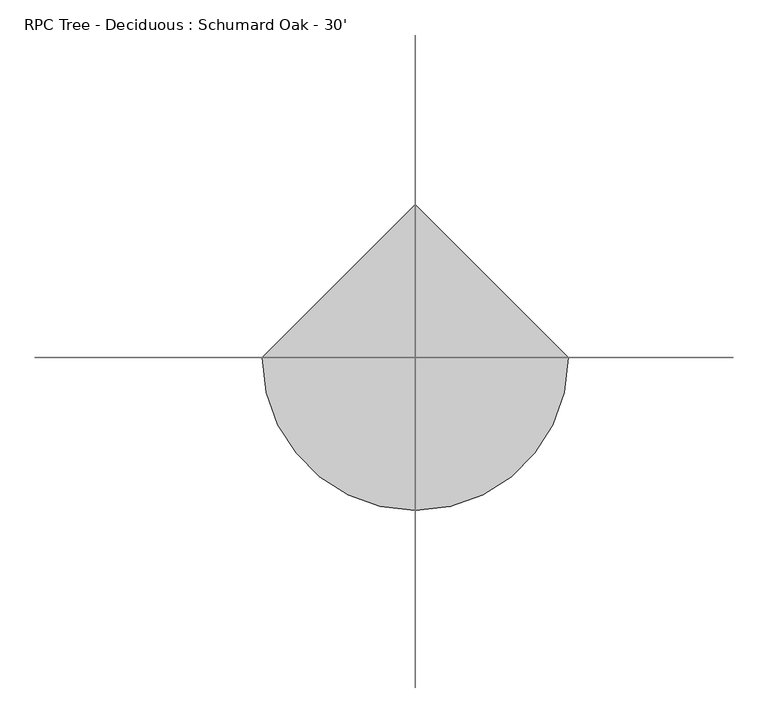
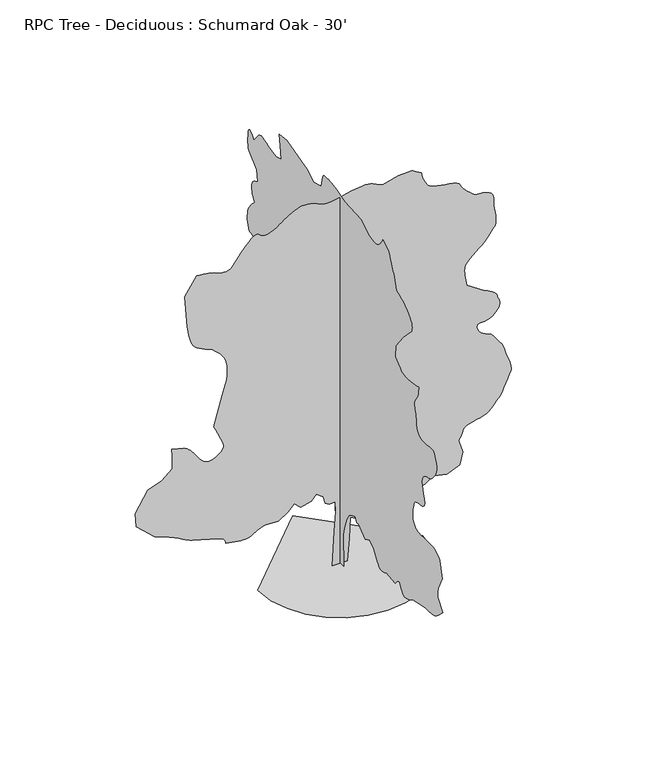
"""IFC4 building model written with IfcOpenShell, lengths in millimetres: geographic element geometry, RPC Tree - Deciduous : Schumard Oak - 30'."""

from ifc_helpers import new_model, si_unit, origin, place, context, project, spatial, triangles, source, transform, mapped, element, save


def rpc_tree_deciduous_schumard_oak_30_cf07c7db(model_context):
    return source(origin(), model_context, "Body", "Tessellation", [
        triangles([(-0.0016958, 164.6246354, 0.0086022), (-0.0016958, -151.6104316, 0.0086022), (-0.0016958, -124.1113561, 783.7227293), (-0.0016958, -179.1089983, 1017.4612965), (-0.0016958, -261.6049622, 1237.4509209), (-0.0016958, -357.8507226, 1388.6927067), (-0.0016958, -467.8454985, 1457.4403999), (-0.0016958, -605.3383779, 1512.436607), (-0.0016958, -660.3370193, 1388.6927067), (-0.0016958, -756.5828161, 1416.1908829), (-0.0016958, -866.5775557, 1306.195998), (-0.0016958, -1017.8194868, 1209.9502739), (-0.0016958, -1196.5619196, 1292.4469826), (-0.0016958, -1361.5527935, 1182.452243), (-0.0016958, -1471.5476784, 989.9607222), (-0.0016958, -1498.1643677, 951.9597713), (-0.0016958, -1525.3829098, 915.7621988), (-0.0016958, -1553.8031227, 883.1739264), (-0.0016958, -1584.0290394, 855.9959341), (-0.0016958, -1616.658007, 836.0340712), (-0.0016958, -1652.2942039, 825.0891724), (-0.0016958, -1691.5371574, 824.9697756), (-0.0016958, -1729.1774471, 831.662681), (-0.0016958, -1760.3255459, 839.8008471), (-0.0016958, -1786.0582775, 849.1404659), (-0.0016958, -1807.4654011, 859.4426714), (-0.0016958, -1825.6238857, 870.4663445), (-0.0016958, -1841.6182583, 881.9725462), (-0.0016958, -1856.5307201, 893.7149254), (-0.0016958, -2214.0131149, 852.4678791), (-0.0016958, -2249.2480282, 893.1561659), (-0.0016958, -2283.7616192, 930.4738735), (-0.0016958, -2316.8324203, 961.0605967), (-0.0016958, -2347.7391094, 981.54314), (-0.0016958, -2375.7578934, 988.5586275), (-0.0016958, -2400.1697754, 978.7389507), (-0.0016958, -2420.2535786, 948.7136032), (-0.0016958, -2440.416156, 905.5412384), (-0.0016958, -2465.389341, 860.9260838), (-0.0016958, -2494.9323051, 818.4750412), (-0.0016958, -2528.8058189, 781.7974108), (-0.0016958, -2566.7735596, 754.4999491), (-0.0016958, -2608.5820541, 740.1896307), (-0.0016958, -2653.9973053, 742.4730669), (-0.0016958, -2699.5395836, 755.8614212), (-0.0016958, -2742.1861084, 772.1352098), (-0.0016958, -2782.4196991, 790.8169184), (-0.0016958, -2820.7484642, 811.421402), (-0.0016958, -2857.6293526, 833.4686754), (-0.0016958, -2893.5448929, 856.475992), (-0.0016958, -2928.9779045, 879.96591), (-0.0016958, -3423.9482735, 976.2117067), (-0.0016958, -3485.6956673, 976.3335743), (-0.0016958, -3546.579451, 977.174366), (-0.0016958, -3605.7868835, 979.4603456), (-0.0016958, -3662.4543549, 983.9078939), (-0.0016958, -3715.7688332, 991.2459635), (-0.0016958, -3764.8925789, 1002.1882462), (-0.0016958, -3808.9361115, 1017.4612965), (-0.0016958, -3851.3797417, 1039.546649), (-0.0016958, -3896.0075409, 1069.5719965), (-0.0016958, -3942.4134293, 1106.2115479), (-0.0016958, -3990.2924835, 1148.1393665), (-0.0016958, -4039.2383331, 1194.0371464), (-0.0016958, -4088.8951859, 1242.5817123), (-0.0016958, -4138.9334106, 1292.4469826), (-0.0016958, -3946.4265564, 1512.436607), (-0.0016958, -3940.7114983, 1553.6455742), (-0.0016958, -3935.9362083, 1594.6132771), (-0.0016958, -3933.0916145, 1635.0983059), (-0.0016958, -3933.1169037, 1674.8646286), (-0.0016958, -3937.0032944, 1713.6657486), (-0.0016958, -3945.7152626, 1751.2679592), (-0.0016958, -3960.1934486, 1787.4247639), (-0.0016958, -4111.425206, 2103.6601124), (-0.0016958, -4015.1842781, 2488.640538), (-0.0016958, -4007.6405525, 2499.2628548), (-0.0016958, -3985.1869812, 2526.4815422), (-0.0016958, -3948.0776184, 2563.3191193), (-0.0016958, -3896.5156494, 2602.8164177), (-0.0016958, -3830.780127, 2637.9697952), (-0.0016958, -3751.1003975, 2661.820665), (-0.0016958, -3657.7046448, 2667.3831161), (-0.0016958, -3553.6406479, 2663.0650658), (-0.0016958, -3446.4524231, 2661.3634254), (-0.0016958, -3343.1000107, 2661.617189), (-0.0016958, -3250.5928665, 2663.0650658), (-0.0016958, -3175.8660324, 2664.970182), (-0.0016958, -3125.9298363, 2666.6718224), (-0.0016958, -3107.7178665, 2667.3831161), (-0.0016958, -3097.049913, 2674.6474983), (-0.0016958, -3069.5669975, 2695.1200859), (-0.0016958, -3031.9495262, 2726.9207611), (-0.0016958, -2990.9793526, 2768.0688309), (-0.0016958, -2953.3874611, 2816.7097572), (-0.0016958, -2925.9045456, 2870.8625565), (-0.0016958, -2915.2365921, 2928.622403), (-0.0016958, -2917.2431557, 2986.3310898), (-0.0016958, -2922.8564758, 3041.9064766), (-0.0016958, -2931.4672874, 3095.6529053), (-0.0016958, -2942.4907425, 3147.977037), (-0.0016958, -2955.3178665, 3199.2087936), (-0.0016958, -2969.3385223, 3249.7039673), (-0.0016958, -2983.9690247, 3299.8436394), (-0.0016958, -2996.0086967, 3314.52472), (-0.0016958, -3009.4706657, 3328.8250099), (-0.0016958, -3025.8280975, 3342.414006), (-0.0016958, -3046.5038704, 3354.9362068), (-0.0016958, -3072.9705688, 3365.9852417), (-0.0016958, -3106.6510712, 3375.2561874), (-0.0016958, -3148.9673836, 3382.3429642), (-0.0016958, -3200.1485619, 3386.6863037), (-0.0016958, -3255.4443146, 3391.740937), (-0.0016958, -3308.7843727, 3403.2725006), (-0.0016958, -3354.1996239, 3427.0722107), (-0.0016958, -3385.6703773, 3468.9315742), (-0.0016958, -3397.1766518, 3534.5906479), (-0.0016958, -3382.6984657, 3629.8406479), (-0.0016958, -3353.0819595, 3737.5114014), (-0.0016958, -3325.8786781, 3836.2667107), (-0.0016958, -3305.152327, 3925.6746254), (-0.0016958, -3294.9921913, 4005.2023293), (-0.0016958, -3299.5387161, 4074.3920013), (-0.0016958, -3322.8306084, 4132.761113), (-0.0016958, -3368.9571533, 4179.8018463), (-0.0016958, -3425.5228867, 4212.7710548), (-0.0016958, -3477.9993347, 4232.964299), (-0.0016958, -3527.3262657, 4246.1975029), (-0.0016958, -3574.5193153, 4258.2118858), (-0.0016958, -3620.493544, 4274.8233719), (-0.0016958, -3666.2390076, 4301.7473099), (-0.0016958, -3712.6954742, 4344.8004959), (-0.0016958, -3760.0411308, 4399.562851), (-0.0016958, -3805.2023277, 4457.9322533), (-0.0016958, -3844.3694138, 4520.1368866), (-0.0016958, -3873.6809967, 4586.4308052), (-0.0016958, -3889.2765564, 4657.068354), (-0.0016958, -3887.295282, 4732.2777168), (-0.0016958, -3863.9272316, 4812.2879494), (-0.0016958, -3835.7077332, 4887.9545517), (-0.0016958, -3816.632444, 4949.7019455), (-0.0016958, -3799.0047409, 4996.9967331), (-0.0016958, -3775.1032928, 5029.3819656), (-0.0016958, -3737.2573471, 5046.3745331), (-0.0016958, -3677.7705711, 5047.4919067), (-0.0016958, -3588.9466324, 5032.2771378), (-0.0016958, -3483.5620766, 5015.437468), (-0.0016958, -3382.266806, 5012.0591858), (-0.0016958, -3289.150106, 5022.1684525), (-0.0016958, -3208.3018433, 5045.7396881), (-0.0016958, -3143.7860138, 5082.7728928), (-0.0016958, -3099.7421906, 5133.2930649), (-0.0016958, -3080.2096619, 5197.2507889), (-0.0016958, -3073.5295464, 5265.5768509), (-0.0016958, -3065.4015541, 5329.5339935), (-0.0016958, -3056.0541595, 5389.9099594), (-0.0016958, -3045.7417076, 5447.3901718), (-0.0016958, -3034.7182526, 5502.7112137), (-0.0016958, -3023.2119781, 5556.5846695), (-0.0016958, -3011.4772293, 5609.7471222), (-0.0016958, -3000.047113, 5648.0755966), (-0.0016958, -2990.8014565, 5686.505809), (-0.0016958, -2985.8485611, 5725.1900757), (-0.0016958, -2987.423465, 5764.2295532), (-0.0016958, -2997.6341789, 5803.7521408), (-0.0016958, -3018.6907425, 5843.8839935), (-0.0016958, -3052.7267464, 5884.7274307), (-0.0016958, -3089.125106, 5934.8418137), (-0.0016958, -3116.6080215, 5997.6815826), (-0.0016958, -3136.4198936, 6065.8297485), (-0.0016958, -3149.7295464, 6131.8187439), (-0.0016958, -3157.7558006, 6188.1815826), (-0.0016958, -3161.6674805, 6227.450116), (-0.0016958, -3162.7089867, 6242.2073547), (-0.0016958, -3142.4395844, 6237.6861191), (-0.0016958, -3088.0074417, 6226.1798447), (-0.0016958, -3009.0387154, 6210.8383392), (-0.0016958, -2915.160434, 6194.7602509), (-0.0016958, -2815.9731743, 6181.0948059), (-0.0016958, -2721.1295448, 6172.9418152), (-0.0016958, -2640.2304131, 6173.4749222), (-0.0016958, -2571.9299309, 6185.3619873), (-0.0016958, -2507.9599983, 6208.094902), (-0.0016958, -2447.5915901, 6239.8452896), (-0.0016958, -2390.1089069, 6278.808609), (-0.0016958, -2334.7901905, 6323.1826447), (-0.0016958, -2280.9167347, 6371.1634369), (-0.0016958, -2227.7621304, 6420.9476074), (-0.0016958, -2241.5111458, 6709.6945175), (-0.0016958, -2543.9897758, 7094.6826462), (-0.0016958, -2887.7283875, 7452.1625702), (-0.0016958, -2893.1132332, 7496.4860275), (-0.0016958, -2895.3482712, 7541.6722229), (-0.0016958, -2891.335144, 7588.5356415), (-0.0016958, -2877.9493332, 7637.9128601), (-0.0016958, -2852.0666107, 7690.6689423), (-0.0016958, -2810.5377502, 7747.6160477), (-0.0016958, -2750.2379425, 7809.6424942), (-0.0016958, -2679.5242355, 7869.2562973), (-0.0016958, -2608.8108192, 7919.4724182), (-0.0016958, -2538.10467, 7961.8901779), (-0.0016958, -2467.3935791, 7998.0344833), (-0.0016958, -2396.6824883, 8029.5052368), (-0.0016958, -2325.9712521, 8057.8517624), (-0.0016958, -2255.2601612, 8084.6233841), (-0.0016958, -2234.6175259, 8155.1336151), (-0.0016958, -2213.8530956, 8224.4503143), (-0.0016958, -2192.8472557, 8291.3537888), (-0.0016958, -2171.4808273, 8354.651088), (-0.0016958, -2149.6341957, 8413.1219376), (-0.0016958, -2127.1881821, 8465.5983856), (-0.0016958, -2104.0183754, 8510.8607391), (-0.0016958, -2078.3235775, 8560.2129593), (-0.0016958, -2049.9822842, 8621.0970337), (-0.0016958, -2021.4021973, 8686.5529221), (-0.0016958, -1994.9862225, 8749.5955856), (-0.0016958, -1973.1395908, 8803.2917267), (-0.0016958, -1958.2679695, 8840.6039841), (-0.0016958, -1952.7738281, 8854.5996414), (-0.0016958, -1719.0353336, 8992.089505), (-0.0016958, -1707.0516174, 8968.3915329), (-0.0016958, -1693.863905, 8943.9819763), (-0.0016958, -1678.2681999, 8918.1248337), (-0.0016958, -1659.0683544, 8890.1085205), (-0.0016958, -1635.057756, 8859.1970352), (-0.0016958, -1605.0324085, 8824.678212), (-0.0016958, -1567.7934025, 8785.841629), (-0.0016958, -1522.9369835, 8752.2122864), (-0.0016958, -1471.5882282, 8732.2983856), (-0.0016958, -1414.8268673, 8723.7896027), (-0.0016958, -1353.7372822, 8724.4244476), (-0.0016958, -1289.3990582, 8731.9175949), (-0.0016958, -1222.896722, 8743.9825562), (-0.0016958, -1155.3123299, 8758.3334244), (-0.0016958, -852.8259968, 8964.5813004), (-0.0016958, -192.8582863, 9005.8311081), (-0.0016958, -107.5965211, 9029.2756073), (-0.0016958, -23.416737, 9052.008522), (-0.0016958, 58.5983536, 9073.2938507), (-0.0016958, 137.366361, 9092.4200089), (-0.0016958, 211.8051857, 9108.6504135), (-0.0016958, 280.8327856, 9121.2740616), (-0.0016958, 343.3650879, 9129.57995), (-0.0016958, 405.0185557, 9135.9045639), (-0.0016958, 469.5549508, 9141.5181747), (-0.0016958, 533.1311937, 9144.0075577), (-0.0016958, 591.8966838, 9140.9594879), (-0.0016958, 642.0033274, 9129.9863205), (-0.0016958, 679.6029219, 9108.6504135), (-0.0016958, 700.8500261, 9074.5891205), (-0.0016958, 769.5952486, 8799.5832321), (-0.0016958, 1072.081509, 8717.1091965), (-0.0016958, 1347.0698112, 8882.0822662), (-0.0016958, 1690.8031906, 8964.5813004), (-0.0016958, 2144.5313095, 9102.0717453), (-0.0016958, 2447.0174973, 9060.8225189), (-0.0016958, 2419.5169956, 8799.5832321), (-0.0016958, 2364.5209339, 8497.1197174), (-0.0016958, 2584.5030006, 8428.361705), (-0.0016958, 2804.4924797, 8469.6115128), (-0.0016958, 2889.5570549, 8501.5647949), (-0.0016958, 2972.3357231, 8530.7490601), (-0.0016958, 3050.5425774, 8554.3964539), (-0.0016958, 3121.8911293, 8569.7385406), (-0.0016958, 3184.1210518, 8574.0307205), (-0.0016958, 3234.8958595, 8564.480722), (-0.0016958, 3271.9799332, 8538.3439453), (-0.0016958, 3478.2280998, 8290.8712601), (-0.0016958, 3525.090937, 8345.6591949), (-0.0016958, 3570.2521339, 8393.3603531), (-0.0016958, 3612.0606285, 8426.8885391), (-0.0016958, 3648.8144897, 8439.1058167), (-0.0016958, 3678.8373665, 8422.9515701), (-0.0016958, 3700.4526169, 8371.313443), (-0.0016958, 3711.9588913, 8277.1046585), (-0.0016958, 3715.4389114, 8172.4819748), (-0.0016958, 3714.6005905, 8091.684581), (-0.0016958, 3710.155513, 8030.6987686), (-0.0016958, 3702.8149727, 7985.6137299), (-0.0016958, 3693.3152618, 7952.4163376), (-0.0016958, 3682.3679649, 7927.1684601), (-0.0016958, 3670.7093742, 7905.8831314), (-0.0016958, 3354.4789673, 7644.6438446), (-0.0016958, 3326.9707626, 7355.921933), (-0.0016958, 3370.9384277, 7337.989888), (-0.0016958, 3413.6102417, 7318.6346741), (-0.0016958, 3453.615358, 7296.384288), (-0.0016958, 3489.6326363, 7269.8161423), (-0.0016958, 3520.3920959, 7237.4564896), (-0.0016958, 3544.5220184, 7197.8833237), (-0.0016958, 3560.7018448, 7149.674057), (-0.0016958, 3566.8994316, 7096.6389221), (-0.0016958, 3562.9624626, 7043.6032059), (-0.0016958, 3550.618158, 6990.568071), (-0.0016958, 3531.5425781, 6937.5329361), (-0.0016958, 3507.4126556, 6884.4978012), (-0.0016958, 3479.904451, 6831.4626663), (-0.0016958, 3450.7198952, 6778.4269501), (-0.0016958, 3494.7381386, 6734.2313919), (-0.0016958, 3537.6640068, 6689.8829361), (-0.0016958, 3578.4309952, 6645.3060059), (-0.0016958, 3615.9470192, 6600.3732834), (-0.0016958, 3649.1447021, 6554.9580322), (-0.0016958, 3676.9322502, 6508.9329346), (-0.0016958, 3698.2175789, 6462.1968338), (-0.0016958, 3713.4829262, 6416.6548462), (-0.0016958, 3724.4305138, 6374.0080307), (-0.0016958, 3731.7710541, 6333.77444), (-0.0016958, 3736.2161316, 6295.4459656), (-0.0016958, 3738.5020386, 6258.5650772), (-0.0016958, 3739.3400688, 6222.6492462), (-0.0016958, 3739.4670959, 6187.2165253), (-0.0016958, 3656.9680618, 5953.4854431), (-0.0016958, 3618.6901657, 5947.3387253), (-0.0016958, 3580.5140076, 5939.7694199), (-0.0016958, 3542.591613, 5929.304361), (-0.0016958, 3505.0250107, 5914.5215424), (-0.0016958, 3467.9665169, 5893.9477982), (-0.0016958, 3431.4664192, 5866.1599594), (-0.0016958, 3395.728775, 5829.7366013), (-0.0016958, 3363.165937, 5786.4799393), (-0.0016958, 3335.6830215, 5739.6171021), (-0.0016958, 3312.3911293, 5689.7567734), (-0.0016958, 3292.4522301, 5637.4838013), (-0.0016958, 3275.0532921, 5583.4068695), (-0.0016958, 3259.3559944, 5528.1364059), (-0.0016958, 3244.4717285, 5472.2566772), (-0.0016958, 3212.2896812, 5428.0349579), (-0.0016958, 3181.4287743, 5383.7120819), (-0.0016958, 3153.2092758, 5339.1351517), (-0.0016958, 3128.9523262, 5294.1768494), (-0.0016958, 3110.0037735, 5248.7615982), (-0.0016958, 3097.6341797, 5202.7620804), (-0.0016958, 3093.2399712, 5156.026561), (-0.0016958, 3106.9812836, 4784.7797447), (-0.0016958, 3139.1630402, 4781.5284897), (-0.0016958, 3170.049527, 4776.4738564), (-0.0016958, 3198.2690254, 4767.8377556), (-0.0016958, 3222.5006859, 4753.7662308), (-0.0016958, 3241.4745277, 4732.4809021), (-0.0016958, 3253.8188324, 4702.1533928), (-0.0016958, 3258.2383301, 4661.0306122), (-0.0016958, 3257.0192184, 4613.5073502), (-0.0016958, 3253.6665161, 4565.2219254), (-0.0016958, 3248.4848557, 4516.377523), (-0.0016958, 3241.8808983, 4467.0253029), (-0.0016958, 3234.1845657, 4417.3175812), (-0.0016958, 3225.7516502, 4367.3810944), (-0.0016958, 3216.988813, 4317.2922913), (-0.0016958, 3203.2219208, 4042.311692), (-0.0016958, 3464.4612076, 4056.0785843), (-0.0016958, 3753.208699, 4111.0694138), (-0.0016958, 3814.6511696, 4090.2669044), (-0.0016958, 3873.5792587, 4068.37202), (-0.0016958, 3927.4527145, 4044.3182556), (-0.0016958, 3973.7568649, 4017.0132362), (-0.0016958, 4009.9520393, 3985.3901665), (-0.0016958, 4033.523275, 3948.3569618), (-0.0016958, 4041.9306107, 3904.8212471), (-0.0016958, 4039.5429657, 3849.6778107), (-0.0016958, 4032.8119812, 3780.081768), (-0.0016958, 4022.448951, 3698.4716331), (-0.0016958, 4009.2407455, 3607.2347603), (-0.0016958, 3993.8483711, 3508.7840836), (-0.0016958, 3977.00812, 3405.5078293), (-0.0016958, 3959.4568657, 3299.8436394), (-0.0016958, 3835.7077332, 2969.87192), (-0.0016958, 3768.1185448, 2931.9498161), (-0.0016958, 3701.6211502, 2896.3136192), (-0.0016958, 3637.2829262, 2865.2492363), (-0.0016958, 3576.1959572, 2841.0431557), (-0.0016958, 3519.4267479, 2825.9554138), (-0.0016958, 3468.0679642, 2822.3233681), (-0.0016958, 3423.2113998, 2832.3817657), (-0.0016958, 3038.248851, 2997.3548355), (-0.0016958, 2653.2607224, 2873.6312828), (-0.0016958, 2378.2699493, 2681.1244286), (-0.0016958, 2103.2842632, 2268.651059), (-0.0016958, 2076.6675739, 2227.6428062), (-0.0016958, 2049.4488865, 2188.0796688), (-0.0016958, 2021.0263481, 2151.4021111), (-0.0016958, 1990.8027569, 2119.0526321), (-0.0016958, 1958.1739346, 2092.4764927), (-0.0016958, 1922.5377377, 2073.1141571), (-0.0016958, 1883.2946388, 2062.4105953), (-0.0016958, 1844.1303143, 2058.8443886), (-0.0016958, 1807.3715115, 2059.123732), (-0.0016958, 1770.371299, 2062.0498615), (-0.0016958, 1730.4881229, 2066.4186356), (-0.0016958, 1685.070401, 2071.0288193), (-0.0016958, 1631.4762886, 2074.6762711), (-0.0016958, 1567.0592903, 2076.1596107), (-0.0016958, 1497.9510086, 2070.950045), (-0.0016958, 1431.730632, 2056.3577671), (-0.0016958, 1367.9130157, 2033.9498325), (-0.0016958, 1306.020718, 2005.2883553), (-0.0016958, 1245.5712101, 1971.9382107), (-0.0016958, 1186.0844341, 1935.4612221), (-0.0016958, 1127.0801868, 1897.4196487), (-0.0016958, 1044.5834782, 1663.6810089), (-0.0016958, 810.8448383, 1402.4418674), (-0.0016958, 778.5741337, 1367.4862976), (-0.0016958, 741.256426, 1333.2546661), (-0.0016958, 699.7273476, 1299.622562), (-0.0016958, 654.8303061, 1266.4729866), (-0.0016958, 607.408455, 1233.6815289), (-0.0016958, 558.3051295, 1201.1339516), (-0.0016958, 508.3585416, 1168.7032276), (-0.0016958, 425.8618329, 1457.4403999), (-0.0016958, 288.3689717, 1649.9293774), (-0.0016958, 233.3715837, 1526.1856224), (-0.0016958, 192.1232112, 1333.696645), (-0.0016958, 178.3741776, 989.9607222), (-0.0016958, 150.8753565, 508.7344634), (170.3625119, 0.000436, 0.0217742), (-187.1199193, 0.000436, 0.0217742), (-132.1230309, 0.000387, 824.9824928), (-104.6242098, 0.0003581, 1306.2087879), (-118.3734886, 0.0003434, 1553.698914), (-255.8671038, 0.0003442, 1539.9498985), (-352.1128461, 0.000341, 1594.9459602), (-393.359965, 0.0003302, 1773.6885384), (-558.3534187, 0.0003237, 1883.6832779), (-668.3482309, 0.000331, 1759.9395229), (-915.8358135, 0.0003352, 1691.1918297), (-1067.0802881, 0.0003271, 1828.6846001), (-1218.3221466, 0.000336, 1677.4428143), (-1438.311771, 0.0003442, 1539.9498985), (-1768.2961349, 0.0003434, 1553.698914), (-1933.2869362, 0.0003476, 1484.9512207), (-1968.7250347, 0.0003491, 1458.6138748), (-2004.6407204, 0.0003507, 1433.3612011), (-2041.5189926, 0.000352, 1410.2726395), (-2079.8425255, 0.0003531, 1390.4301006), (-2120.0889061, 0.0003541, 1374.915786), (-2162.738047, 0.0003547, 1364.8142223), (-2208.2752384, 0.0003549, 1361.2074657), (-2259.0244663, 0.0003549, 1362.8101295), (-2316.2658852, 0.0003547, 1367.3008438), (-2378.9175842, 0.0003541, 1374.1944637), (-2445.902449, 0.0003536, 1383.0132568), (-2516.1310112, 0.0003531, 1393.2749851), (-2588.5161278, 0.0003523, 1404.4991547), (-2661.9982704, 0.0003518, 1416.2061436), (-2665.4018417, 0.0003499, 1445.5887978), (-2671.5741394, 0.0003481, 1474.4889233), (-2683.2835991, 0.0003465, 1502.428933), (-2703.2986565, 0.0003449, 1528.9262981), (-2734.3630394, 0.0003434, 1553.4981995), (-2779.2448929, 0.0003421, 1575.6648697), (-2840.7382324, 0.000341, 1594.9459602), (-3445.7158401, 0.0003302, 1773.6885384), (-3495.0936401, 0.0003295, 1789.3602562), (-3547.8494316, 0.0003281, 1811.5293972), (-3602.2815742, 0.0003266, 1838.265556), (-3656.7140076, 0.0003247, 1867.6482101), (-3709.469799, 0.0003229, 1897.7523319), (-3758.8728882, 0.0003213, 1926.6550735), (-3803.1957642, 0.0003197, 1952.4285004), (-3850.8716331, 0.0003182, 1977.2011162), (-3910.0790657, 0.0003166, 2004.1403149), (-3978.8876564, 0.0003148, 2032.8804211), (-4055.4181595, 0.0003132, 2063.0657879), (-4137.7140083, 0.0003113, 2094.3332108), (-4223.8456696, 0.0003092, 2126.3194851), (-4311.9327347, 0.0003074, 2158.668964), (-4738.1450912, 0.0002835, 2557.4011665), (-4765.6532959, 0.0002638, 2887.3725952), (-4476.9060951, 0.000236, 3354.8600487), (-4146.9343758, 0.0002287, 3478.6088905), (-3899.4364014, 0.0002163, 3684.8570572), (-3899.4364014, 0.0001977, 4001.0874641), (-3913.2032936, 0.0001877, 4166.0858231), (-3624.4558022, 0.0001919, 4097.3281013), (-3591.9438332, 0.0001932, 4076.3729851), (-3558.8475975, 0.0001945, 4053.3607269), (-3524.5322502, 0.0001961, 4026.2588928), (-3488.4135246, 0.0001979, 3993.03563), (-3449.8815742, 0.0002006, 3951.6082169), (-3408.3524231, 0.0002037, 3899.9953789), (-3363.216806, 0.0002074, 3836.0888145), (-3317.4713425, 0.0002113, 3768.956575), (-3273.4275192, 0.000215, 3709.7491425), (-3229.3839867, 0.0002179, 3659.6856285), (-3183.6385231, 0.0002203, 3619.9601463), (-3134.5403572, 0.0002221, 3591.765937), (-3080.387558, 0.0002229, 3576.3482735), (-3019.4781944, 0.0002229, 3574.8495277), (-2952.9046417, 0.0002221, 3590.0895859), (-2885.848851, 0.0002203, 3620.9507835), (-2822.8567657, 0.0002176, 3662.8860146), (-2768.5513596, 0.0002147, 3711.2984665), (-2727.4541588, 0.0002119, 3761.6413239), (-2704.1622665, 0.000209, 3809.3427727), (-2703.2480782, 0.0002066, 3849.8304176), (-2719.4531937, 0.000204, 3893.6198959), (-2743.5831161, 0.0002006, 3952.5479851), (-2774.3172867, 0.0001961, 4024.0997223), (-2810.3598541, 0.0001914, 4105.735437), (-2850.3649704, 0.0001861, 4194.9657463), (-2893.0114952, 0.0001803, 4289.2506889), (-2936.9788696, 0.0001746, 4386.0755928), (-2744.4975952, 0.0001328, 5087.2685486), (-2718.1576332, 0.0001281, 5166.6433548), (-2692.9100464, 0.0001234, 5244.9263672), (-2669.8216301, 0.0001189, 5321.050209), (-2649.9841782, 0.0001145, 5393.948085), (-2634.4647766, 0.0001105, 5462.477623), (-2624.3555099, 0.0001066, 5525.6220245), (-2620.7487534, 0.0001034, 5582.263916), (-2621.6885216, 0.0001, 5637.5343796), (-2624.7618805, 9.66e-05, 5696.1831253), (-2630.5022278, 9.29e-05, 5756.5079315), (-2639.366803, 8.93e-05, 5816.8333191), (-2651.8128456, 8.58e-05, 5875.4820648), (-2668.3737534, 8.24e-05, 5930.7525284), (-2689.5064751, 7.95e-05, 5980.9936478), (-2716.6844673, 7.67e-05, 6027.7297485), (-2750.3649696, 7.4e-05, 6073.7542648), (-2789.4303177, 7.14e-05, 6119.169516), (-2832.8390053, 6.85e-05, 6164.1022385), (-2879.4986572, 6.59e-05, 6208.6791687), (-2928.3430595, 6.33e-05, 6253.002626), (-2978.2286774, 6.06e-05, 6297.223764), (-3057.4511673, 5.88e-05, 6329.6851547), (-3134.6165154, 5.67e-05, 6362.5273361), (-3207.6922874, 5.49e-05, 6396.0805206), (-3274.6213417, 5.28e-05, 6430.7010818), (-3333.3971146, 5.07e-05, 6466.7942276), (-3381.9365936, 4.83e-05, 6504.6657532), (-3418.2076355, 4.59e-05, 6544.7214478), (-3446.7573463, 4.28e-05, 6598.1123749), (-3473.1478867, 3.86e-05, 6670.5027237), (-3496.8717293, 3.36e-05, 6753.9668152), (-3517.4710533, 2.84e-05, 6840.5557159), (-3534.4636208, 2.34e-05, 6922.3181671), (-3547.3669029, 1.94e-05, 6991.3558136), (-3555.7233696, 1.65e-05, 7039.6918167), (-3610.7144897, -2.94e-05, 7809.6424942), (-3335.7086014, -5.49e-05, 8235.8804306), (-3262.2517479, -5.43e-05, 8226.9396973), (-3189.8616898, -5.38e-05, 8217.4146973), (-3119.6305115, -5.3e-05, 8206.6705856), (-3052.6252991, -5.22e-05, 8194.1225143), (-2989.9887154, -5.15e-05, 8179.162381), (-2932.7372681, -5.04e-05, 8161.2041748), (-2881.9880402, -4.91e-05, 8139.6397934), (-2830.4004913, -4.78e-05, 8118.7864151), (-2772.3107231, -4.7e-05, 8104.2064911), (-2711.3504906, -4.65e-05, 8097.069136), (-2651.1018425, -4.67e-05, 8098.5934616), (-2595.1709541, -4.73e-05, 8109.9724182), (-2547.1901619, -4.86e-05, 8132.4262802), (-2510.7589554, -5.07e-05, 8167.1224182), (-2290.7694763, -6.8e-05, 8455.8699097), (-2232.0038773, -7.19e-05, 8523.1291763), (-2174.2011555, -7.59e-05, 8587.3915329), (-2118.3236069, -7.93e-05, 8645.6333267), (-2065.3290218, -8.22e-05, 8694.8588104), (-2016.1850739, -8.45e-05, 8732.0699112), (-1971.8492626, -8.58e-05, 8754.2185593), (-1933.2869362, -8.61e-05, 8758.3590042), (-1902.260923, -8.53e-05, 8748.0212631), (-1877.0081039, -8.43e-05, 8731.181012), (-1853.1982201, -8.32e-05, 8711.4450073), (-1826.5002857, -8.22e-05, 8692.4455856), (-1792.5886929, -8.11e-05, 8677.7900848), (-1747.1302757, -8.09e-05, 8671.0591003), (-1685.7992809, -8.11e-05, 8675.8593887), (-1612.5227943, -8.24e-05, 8696.712767), (-1537.32346, -8.43e-05, 8731.5112244), (-1465.0070892, -8.69e-05, 8773.9795624), (-1400.3895218, -8.95e-05, 8817.9216476), (-1348.2787491, -9.19e-05, 8857.0378647), (-1313.4833439, -9.35e-05, 8885.1047562), (-1300.8163845, -9.42e-05, 8895.8488678), (-1285.3045406, -9.48e-05, 8905.7802383), (-1244.0574944, -9.63e-05, 8931.6123825), (-1185.0100084, -9.84e-05, 8967.2741592), (-1116.1022959, -0.0001008, 9006.7961655), (-1045.2718082, -0.0001029, 9044.1595825), (-980.4534536, -0.0001047, 9073.344429), (-929.5848289, -0.0001055, 9088.3307236), (-881.3222952, -0.0001058, 9091.6578461), (-821.2740709, -0.0001058, 9089.7021515), (-752.8083372, -0.0001053, 9082.2090042), (-679.2905136, -0.0001045, 9068.9505112), (-604.0912156, -0.0001034, 9049.6714554), (-530.573392, -0.0001019, 9024.1189453), (-462.1076583, -0.0001, 8992.089505), (-389.2730779, -9.84e-05, 8965.9533096), (-302.0062388, -9.79e-05, 8956.4283096), (-202.713753, -9.79e-05, 8960.7204895), (-93.8012603, -9.9e-05, 8976.0625763), (22.3266441, -0.0001003, 8999.7099701), (143.2647473, -0.0001021, 9028.8942352), (266.608781, -0.000104, 9060.8475174), (351.7496415, -0.0001047, 9072.3793716), (435.0871056, -0.0001053, 9082.4886383), (514.8177767, -0.0001058, 9089.7021515), (589.1356968, -0.0001058, 9092.597905), (656.2400311, -0.0001058, 9089.7021515), (714.324785, -0.000105, 9079.5928848), (761.584037, -0.000104, 9060.8475174), (801.2284195, -0.0001026, 9038.8767654), (837.987295, -0.0001016, 9019.8011856), (872.3408667, -0.0001005, 9003.1132507), (904.7690472, -9.98e-05, 8988.356012), (935.7570539, -9.9e-05, 8975.0719391), (965.779858, -9.82e-05, 8962.7017639), (995.3226768, -9.74e-05, 8950.8402786), (1352.8050716, -0.0001032, 9047.0809158), (1669.0404202, -0.000104, 9060.8475174), (1889.0325153, -9.66e-05, 8937.0986755), (1892.1974384, -9.48e-05, 8904.5611267), (1896.6881527, -9.27e-05, 8871.1602585), (1903.8228916, -9.06e-05, 8836.0827484), (1914.9278824, -8.85e-05, 8798.4908569), (1931.3210678, -8.58e-05, 8757.5206833), (1954.3308552, -8.32e-05, 8712.3339066), (1985.2757687, -8.03e-05, 8662.118367), (2016.3831722, -7.74e-05, 8616.1438477), (2042.1971489, -7.56e-05, 8582.1842926), (2067.531213, -7.4e-05, 8557.1398911), (2097.1958267, -7.27e-05, 8537.8358368), (2135.9969467, -7.19e-05, 8521.1990616), (2188.7502674, -7.09e-05, 8504.1047562), (2260.2639256, -6.96e-05, 8483.3781143), (2348.4121788, -6.85e-05, 8463.4136353), (2443.5351517, -6.75e-05, 8448.2500259), (2539.1383278, -6.67e-05, 8434.3055283), (2628.7244293, -6.56e-05, 8417.9478058), (2705.8133286, -6.43e-05, 8395.5701019), (2763.9030968, -6.25e-05, 8363.5918213), (2796.4915146, -5.99e-05, 8318.3794647), (2820.5705681, -5.67e-05, 8265.7507004), (2856.206765, -5.36e-05, 8213.8329391), (2901.4696999, -5.04e-05, 8162.5250244), (2954.4286766, -4.75e-05, 8111.6996384), (3013.1535805, -4.44e-05, 8061.2300446), (3075.7137154, -4.15e-05, 8011.0139236), (3140.2298355, -3.83e-05, 7960.8995407), (3230.9333107, -3.78e-05, 7951.6035965), (3317.928582, -3.73e-05, 7939.5386353), (3397.4559952, -3.62e-05, 7921.9362213), (3465.8073463, -3.47e-05, 7896.027919), (3519.2235626, -3.23e-05, 7859.0708725), (3554.0217293, -2.94e-05, 7808.2966461), (3566.4421921, -2.55e-05, 7740.9100616), (3567.2549332, -2.13e-05, 7670.7044632), (3569.4902618, -1.76e-05, 7612.0812973), (3572.9447021, -1.47e-05, 7563.0337097), (3577.3641998, -1.23e-05, 7521.7077438), (3582.4949913, -1.02e-05, 7486.1732849), (3588.1086021, -8.1e-06, 7454.4484772), (3593.9503967, -6.6e-06, 7424.6799454), (3605.4566711, -2.4e-06, 7354.1947128), (3615.2865944, 1.8e-06, 7285.1832275), (3621.7382355, 5.8e-06, 7219.0413345), (3623.1352432, 9.5e-06, 7157.2177826), (3617.8009758, 1.29e-05, 7101.1851563), (3604.0596634, 1.58e-05, 7052.3666245), (3580.2090843, 1.81e-05, 7012.1836121), (3549.779837, 2.05e-05, 6973.6772415), (3516.9376556, 2.31e-05, 6929.6084198), (3480.9965355, 2.6e-05, 6881.221257), (3441.1948952, 2.89e-05, 6829.7098663), (3396.8208595, 3.2e-05, 6776.2933594), (3347.138427, 3.54e-05, 6722.1408508), (3291.4615929, 3.86e-05, 6668.4452911), (3226.8184456, 4.2e-05, 6613.0986694), (3154.6824417, 4.54e-05, 6553.8912369), (3081.1241409, 4.91e-05, 6492.0421051), (3012.1376541, 5.28e-05, 6428.7453873), (2953.7429626, 5.67e-05, 6365.2196136), (2911.9344681, 6.04e-05, 6302.6338989), (2892.7321518, 6.41e-05, 6242.2329346), (2889.6587929, 6.75e-05, 6182.4918137), (2891.6144875, 7.11e-05, 6121.3286865), (2897.7867851, 7.48e-05, 6058.9464478), (2907.3370743, 7.88e-05, 5995.6241501), (2919.4020355, 8.24e-05, 5931.5652695), (2933.1436386, 8.64e-05, 5867.0238602), (2947.7232719, 9.03e-05, 5802.2533951), (3360.2196053, 0.0001066, 5527.2475067), (3376.1959557, 0.0001071, 5520.1357315), (3417.4457634, 0.0001082, 5500.475885), (3473.8591805, 0.00011, 5470.9864059), (3535.3019417, 0.0001121, 5434.2584152), (3591.7153587, 0.0001147, 5392.9830276), (3632.9648758, 0.0001171, 5349.7525269), (3648.9415169, 0.0001197, 5307.2580276), (3657.5267487, 0.0001221, 5267.1511734), (3677.1610153, 0.0001244, 5227.0193207), (3698.7256874, 0.0001271, 5183.5347656), (3713.0765556, 0.0001302, 5133.2930649), (3711.0699921, 0.0001336, 5072.9682587), (3683.5870766, 0.0001381, 4999.1814835), (3621.4586014, 0.0001436, 4908.5282959), (3535.7588905, 0.0001481, 4831.4141075), (3447.6462456, 0.0001504, 4791.5613075), (3363.1403572, 0.0001515, 4775.7881424), (3288.2612068, 0.0001517, 4770.8096672), (3229.0029053, 0.0001523, 4763.4182579), (3191.4110138, 0.0001536, 4740.4312889), (3181.4796432, 0.0001567, 4688.5388168), (3195.7796425, 0.0001604, 4623.8450912), (3225.2438324, 0.0001635, 4569.9716354), (3267.3316704, 0.0001664, 4525.1153618), (3319.528775, 0.0001685, 4487.4723106), (3379.2948944, 0.0001704, 4455.2396851), (3444.1156471, 0.0001722, 4426.6393959), (3511.4510719, 0.0001738, 4399.8169052), (3578.7612076, 0.0001788, 4314.6761719), (3643.3026169, 0.0001838, 4231.3385262), (3702.3068642, 0.0001885, 4151.6079277), (3753.0055138, 0.000193, 4077.2874641), (3792.6548378, 0.0001972, 4010.1805138), (3818.4611115, 0.0002006, 3952.0907455), (3827.6814789, 0.0002032, 3904.8468269), (3838.9084099, 0.0002066, 3848.3063828), (3866.9753014, 0.0002116, 3767.5086983), (3903.4498192, 0.0002171, 3671.7761696), (3939.9240463, 0.0002231, 3570.531768), (3967.9912285, 0.0002289, 3473.1225975), (3979.2178688, 0.0002342, 3388.9469215), (3965.1716331, 0.0002378, 3327.351844), (3932.583506, 0.0002413, 3266.5442184), (3894.7119804, 0.0002462, 3184.3498169), (3852.9799347, 0.000252, 3089.6076347), (3808.8599533, 0.0002578, 2991.2842758), (3763.7496254, 0.0002633, 2898.2440247), (3719.1471153, 0.000268, 2819.4023254), (3676.4497215, 0.0002714, 2763.6493332), (3635.0475975, 0.0002741, 2719.4784828), (3592.6804161, 0.000277, 2671.193058), (3548.3828293, 0.0002798, 2621.4853363), (3501.189489, 0.0002827, 2572.9967262), (3450.1609177, 0.0002854, 2528.3384056), (3394.3317673, 0.0002877, 2490.1773628), (3332.7114006, 0.0002893, 2461.1552971), (3259.8893921, 0.0002906, 2439.6287041), (3175.9677704, 0.0002919, 2420.2688393), (3088.4646812, 0.000293, 2400.1850361), (3004.822403, 0.0002943, 2376.4944763), (2932.457634, 0.0002961, 2346.3115803), (2878.8638123, 0.0002985, 2306.7459721), (2851.4823441, 0.0003016, 2254.9146881), (2836.8265526, 0.0003048, 2202.96408), (2818.2846611, 0.0003071, 2162.5576801), (2798.8027107, 0.000309, 2130.0888771), (2781.2514565, 0.0003108, 2101.9481529), (2768.5004906, 0.0003124, 2074.5288963), (2763.4461479, 0.0003142, 2044.2240601), (2768.9833099, 0.0003163, 2007.4271782), (2851.4823441, 0.0003321, 1746.1905075), (2782.7499115, 0.0003499, 1443.7041744), (2480.25355, 0.0003573, 1319.9602741), (2177.7672169, 0.0003533, 1388.7054966), (1875.2810291, 0.0003646, 1196.2165192), (1655.2914047, 0.0003573, 1319.9602741), (1339.0560562, 0.0003491, 1457.4531898), (1318.3321758, 0.0003499, 1445.3856125), (1297.0062973, 0.0003507, 1431.6365971), (1274.4790386, 0.0003518, 1414.5220894), (1250.1457855, 0.0003531, 1392.3529484), (1223.4097721, 0.0003547, 1363.4528229), (1193.6663115, 0.000357, 1326.1325718), (1160.3160942, 0.0003599, 1278.7106117), (1125.360597, 0.0003628, 1228.8834206), (1091.1289656, 0.0003654, 1184.8296415), (1057.4968615, 0.0003678, 1145.5866154), (1024.3447426, 0.0003699, 1110.1916828), (991.5558283, 0.0003717, 1077.6822573), (959.0057076, 0.0003736, 1047.0980776), (926.577527, 0.0003754, 1017.4740137), (967.8245733, 0.0003927, 728.7367687), (944.1340136, 0.0003933, 720.0372271), (919.7220589, 0.0003935, 712.1810205), (893.867387, 0.000394, 706.0087955), (865.8460596, 0.0003943, 702.3613438), (834.9418413, 0.0003943, 702.0819277), (800.428323, 0.000394, 706.0087955), (761.584037, 0.0003935, 714.9876806), (721.1370872, 0.0003925, 729.9787714), (682.1353254, 0.0003914, 750.743347), (644.3350164, 0.0003898, 776.3186028), (607.4948233, 0.000388, 805.7419521), (571.3785321, 0.0003862, 838.0508085), (535.7422989, 0.0003841, 872.28244), (500.3473663, 0.000382, 907.4792015), (239.1089334, 0.0003738, 1044.9720446), (211.6111206, 0.000404, 536.2452115), (-1916.7566952, 0.0, 0.0), (-1866.0836254, -439.194304, 0.0), (-1721.7683064, -842.5237186, 0.0), (-1495.3652653, -1198.4313549, 0.0), (-1198.4313549, -1495.3652653, 0.0), (-842.5237186, -1721.7683064, 0.0), (-439.194304, -1866.0836254, 0.0), (8.38e-05, -1916.7566952, 0.0), (439.194304, -1866.0836254, 0.0), (842.5237186, -1721.7683064, 0.0), (1198.4313549, -1495.3652653, 0.0), (1495.3652653, -1198.4313549, 0.0), (1721.7683064, -842.5237186, 0.0), (1866.0836254, -439.194304, 0.0), (1916.7566952, 0.0001675, 0.0), (-0.0002514, 1916.7566952, 0.0)], [[407, 408, 409], [173, 174, 175], [406, 407, 409], [219, 220, 221], [1, 2, 3], [414, 1, 3], [413, 414, 3], [413, 3, 4], [412, 413, 4], [412, 4, 5], [255, 256, 257], [219, 221, 222], [65, 66, 67], [405, 406, 409], [8, 9, 10], [219, 222, 223], [404, 405, 409], [64, 65, 67], [412, 5, 6], [411, 412, 6], [403, 404, 409], [219, 223, 224], [172, 173, 175], [172, 175, 176], [171, 172, 176], [171, 176, 177], [170, 171, 177], [254, 255, 257], [254, 257, 258], [402, 403, 409], [63, 64, 67], [218, 219, 224], [401, 402, 409], [218, 224, 225], [217, 218, 225], [312, 313, 314], [216, 217, 225], [216, 225, 226], [170, 177, 178], [169, 170, 178], [168, 169, 178], [167, 168, 178], [167, 178, 179], [166, 167, 179], [166, 179, 180], [165, 166, 180], [11, 12, 13], [216, 226, 227], [215, 216, 227], [400, 401, 409], [400, 409, 410], [399, 400, 410], [29, 30, 31], [62, 63, 67], [214, 215, 227], [214, 227, 228], [410, 411, 6], [410, 6, 7], [165, 180, 181], [164, 165, 181], [312, 314, 315], [61, 62, 67], [213, 214, 228], [60, 61, 67], [59, 60, 67], [58, 59, 67], [57, 58, 67], [56, 57, 67], [55, 56, 67], [54, 55, 67], [53, 54, 67], [52, 53, 67], [52, 67, 68], [52, 68, 69], [253, 254, 258], [252, 253, 258], [29, 31, 32], [271, 272, 273], [271, 273, 274], [270, 271, 274], [270, 274, 275], [269, 270, 275], [268, 269, 275], [268, 275, 276], [268, 276, 277], [268, 277, 278], [268, 278, 279], [268, 279, 280], [268, 280, 281], [268, 281, 282], [268, 282, 283], [267, 268, 283], [266, 267, 283], [265, 266, 283], [264, 265, 283], [263, 264, 283], [262, 263, 283], [261, 262, 283], [260, 261, 283], [259, 260, 283], [259, 283, 284], [52, 69, 70], [212, 213, 228], [212, 228, 229], [211, 212, 229], [210, 211, 229], [209, 210, 229], [208, 209, 229], [10, 11, 13], [163, 164, 181], [163, 181, 182], [312, 315, 316], [51, 52, 70], [51, 70, 71], [51, 71, 72], [207, 208, 229], [207, 229, 230], [206, 207, 230], [366, 367, 368], [74, 75, 76], [74, 76, 77], [74, 77, 78], [74, 78, 79], [74, 79, 80], [74, 80, 81], [74, 81, 82], [74, 82, 83], [74, 83, 84], [74, 84, 85], [74, 85, 86], [73, 74, 86], [73, 86, 87], [73, 87, 88], [72, 73, 88], [51, 72, 88], [51, 88, 89], [51, 89, 90], [51, 90, 91], [51, 91, 92], [51, 92, 93], [50, 51, 93], [49, 50, 93], [48, 49, 93], [47, 48, 93], [46, 47, 93], [45, 46, 93], [44, 45, 93], [43, 44, 93], [42, 43, 93], [41, 42, 93], [40, 41, 93], [39, 40, 93], [38, 39, 93], [37, 38, 93], [36, 37, 93], [35, 36, 93], [35, 93, 94], [34, 35, 94], [34, 94, 95], [34, 95, 96], [33, 34, 96], [205, 206, 230], [258, 259, 284], [252, 258, 284], [29, 32, 33], [29, 33, 96], [29, 96, 97], [311, 312, 316], [190, 191, 192], [190, 192, 193], [190, 193, 194], [190, 194, 195], [190, 195, 196], [190, 196, 197], [190, 197, 198], [190, 198, 199], [190, 199, 200], [190, 200, 201], [190, 201, 202], [190, 202, 203], [190, 203, 204], [190, 204, 205], [189, 190, 205], [189, 205, 230], [189, 230, 231], [189, 231, 232], [189, 232, 233], [189, 233, 234], [410, 7, 8], [310, 311, 316], [310, 316, 317], [309, 310, 317], [308, 309, 317], [307, 308, 317], [306, 307, 317], [305, 306, 317], [304, 305, 317], [303, 304, 317], [302, 303, 317], [302, 317, 318], [301, 302, 318], [300, 301, 318], [299, 300, 318], [299, 318, 319], [298, 299, 319], [298, 319, 320], [162, 163, 182], [366, 368, 369], [298, 320, 321], [366, 369, 370], [366, 370, 371], [366, 371, 372], [366, 372, 373], [366, 373, 374], [366, 374, 375], [365, 366, 375], [364, 365, 375], [363, 364, 375], [362, 363, 375], [361, 362, 375], [360, 361, 375], [359, 360, 375], [358, 359, 375], [357, 358, 375], [356, 357, 375], [355, 356, 375], [354, 355, 375], [353, 354, 375], [352, 353, 375], [351, 352, 375], [350, 351, 375], [350, 375, 376], [234, 235, 236], [189, 234, 236], [188, 189, 236], [188, 236, 237], [188, 237, 238], [188, 238, 239], [188, 239, 240], [188, 240, 241], [188, 241, 242], [188, 242, 243], [188, 243, 244], [188, 244, 245], [188, 245, 246], [188, 246, 247], [188, 247, 248], [188, 248, 249], [188, 249, 250], [188, 250, 251], [188, 251, 252], [188, 252, 284], [187, 188, 284], [187, 284, 285], [187, 285, 286], [187, 286, 287], [187, 287, 288], [187, 288, 289], [187, 289, 290], [187, 290, 291], [187, 291, 292], [187, 292, 293], [187, 293, 294], [187, 294, 295], [187, 295, 296], [187, 296, 297], [187, 297, 298], [187, 298, 321], [187, 321, 322], [187, 322, 323], [187, 323, 324], [187, 324, 325], [187, 325, 326], [187, 326, 327], [187, 327, 328], [187, 328, 329], [187, 329, 330], [187, 330, 331], [187, 331, 332], [187, 332, 333], [187, 333, 334], [187, 334, 335], [186, 187, 335], [185, 186, 335], [184, 185, 335], [183, 184, 335], [182, 183, 335], [162, 182, 335], [161, 162, 335], [160, 161, 335], [159, 160, 335], [158, 159, 335], [157, 158, 335], [156, 157, 335], [155, 156, 335], [154, 155, 335], [153, 154, 335], [152, 153, 335], [151, 152, 335], [150, 151, 335], [350, 376, 377], [142, 143, 144], [142, 144, 145], [141, 142, 145], [141, 145, 146], [140, 141, 146], [140, 146, 147], [139, 140, 147], [138, 139, 147], [137, 138, 147], [136, 137, 147], [135, 136, 147], [134, 135, 147], [133, 134, 147], [133, 147, 148], [132, 133, 148], [131, 132, 148], [130, 131, 148], [129, 130, 148], [128, 129, 148], [127, 128, 148], [127, 148, 149], [126, 127, 149], [125, 126, 149], [125, 149, 150], [125, 150, 335], [124, 125, 335], [123, 124, 335], [122, 123, 335], [121, 122, 335], [120, 121, 335], [119, 120, 335], [118, 119, 335], [117, 118, 335], [116, 117, 335], [115, 116, 335], [114, 115, 335], [113, 114, 335], [112, 113, 335], [111, 112, 335], [110, 111, 335], [109, 110, 335], [108, 109, 335], [107, 108, 335], [106, 107, 335], [105, 106, 335], [104, 105, 335], [103, 104, 335], [102, 103, 335], [101, 102, 335], [100, 101, 335], [99, 100, 335], [98, 99, 335], [97, 98, 335], [29, 97, 335], [28, 29, 335], [27, 28, 335], [26, 27, 335], [25, 26, 335], [25, 335, 336], [25, 336, 337], [25, 337, 338], [349, 350, 377], [339, 340, 341], [338, 339, 341], [338, 341, 342], [338, 342, 343], [338, 343, 344], [338, 344, 345], [338, 345, 346], [348, 349, 377], [347, 348, 377], [346, 347, 377], [338, 346, 377], [20, 21, 22], [19, 20, 22], [19, 22, 23], [18, 19, 23], [17, 18, 23], [17, 23, 24], [17, 24, 25], [16, 17, 25], [15, 16, 25], [14, 15, 25], [14, 25, 338], [13, 14, 338], [10, 13, 338], [8, 10, 338], [8, 338, 377], [410, 8, 377], [398, 399, 410], [398, 410, 377], [397, 398, 377], [396, 397, 377], [395, 396, 377], [394, 395, 377], [393, 394, 377], [393, 377, 378], [392, 393, 378], [391, 392, 378], [390, 391, 378], [389, 390, 378], [389, 378, 379], [389, 379, 380], [388, 389, 380], [388, 380, 381], [387, 388, 381], [387, 381, 382], [386, 387, 382], [386, 382, 383], [385, 386, 383], [384, 385, 383], [472, 473, 474], [415, 416, 417], [793, 415, 417], [792, 793, 417], [792, 417, 418], [776, 777, 778], [776, 778, 779], [776, 779, 780], [776, 780, 781], [776, 781, 782], [776, 782, 783], [776, 783, 784], [776, 784, 785], [776, 785, 786], [776, 786, 787], [776, 787, 788], [776, 788, 789], [443, 444, 445], [471, 472, 474], [471, 474, 475], [471, 475, 476], [471, 476, 477], [471, 477, 478], [471, 478, 479], [471, 479, 480], [471, 480, 481], [471, 481, 482], [776, 789, 790], [776, 790, 791], [539, 540, 541], [759, 760, 761], [471, 482, 483], [424, 425, 426], [423, 424, 426], [539, 541, 542], [613, 614, 615], [756, 757, 758], [756, 758, 759], [755, 756, 759], [539, 542, 543], [538, 539, 543], [538, 543, 544], [538, 544, 545], [538, 545, 546], [538, 546, 547], [538, 547, 548], [538, 548, 549], [538, 549, 550], [754, 755, 759], [471, 483, 484], [538, 550, 551], [537, 538, 551], [443, 445, 446], [792, 418, 419], [536, 537, 551], [535, 536, 551], [534, 535, 551], [533, 534, 551], [532, 533, 551], [531, 532, 551], [530, 531, 551], [529, 530, 551], [528, 529, 551], [527, 528, 551], [526, 527, 551], [525, 526, 551], [524, 525, 551], [524, 551, 552], [523, 524, 552], [522, 523, 552], [522, 552, 553], [521, 522, 553], [520, 521, 553], [519, 520, 553], [613, 615, 616], [420, 421, 422], [419, 420, 422], [612, 613, 616], [612, 616, 617], [612, 617, 618], [612, 618, 619], [776, 791, 792], [776, 792, 419], [775, 776, 419], [774, 775, 419], [773, 774, 419], [772, 773, 419], [771, 772, 419], [770, 771, 419], [769, 770, 419], [768, 769, 419], [767, 768, 419], [766, 767, 419], [765, 766, 419], [764, 765, 419], [466, 467, 468], [466, 468, 469], [466, 469, 470], [465, 466, 470], [464, 465, 470], [463, 464, 470], [462, 463, 470], [461, 462, 470], [461, 470, 471], [461, 471, 484], [461, 484, 485], [461, 485, 486], [460, 461, 486], [459, 460, 486], [459, 486, 487], [458, 459, 487], [457, 458, 487], [456, 457, 487], [455, 456, 487], [454, 455, 487], [453, 454, 487], [452, 453, 487], [451, 452, 487], [451, 487, 488], [451, 488, 489], [450, 451, 489], [450, 489, 490], [449, 450, 490], [449, 490, 491], [449, 491, 492], [448, 449, 492], [518, 519, 553], [518, 553, 554], [611, 612, 619], [611, 619, 620], [611, 620, 621], [448, 492, 493], [754, 759, 761], [754, 761, 762], [753, 754, 762], [752, 753, 762], [501, 502, 503], [611, 621, 622], [763, 764, 419], [447, 448, 493], [517, 518, 554], [500, 501, 503], [611, 622, 623], [762, 763, 419], [762, 419, 422], [752, 762, 422], [751, 752, 422], [750, 751, 422], [749, 750, 422], [748, 749, 422], [747, 748, 422], [747, 422, 423], [427, 428, 429], [517, 554, 555], [426, 427, 429], [517, 555, 556], [516, 517, 556], [516, 556, 557], [516, 557, 558], [516, 558, 559], [516, 559, 560], [516, 560, 561], [516, 561, 562], [516, 562, 563], [516, 563, 564], [516, 564, 565], [516, 565, 566], [516, 566, 567], [516, 567, 568], [516, 568, 569], [516, 569, 570], [516, 570, 571], [515, 516, 571], [515, 571, 572], [514, 515, 572], [514, 572, 573], [442, 443, 446], [442, 446, 447], [442, 447, 493], [441, 442, 493], [440, 441, 493], [439, 440, 493], [438, 439, 493], [437, 438, 493], [436, 437, 493], [435, 436, 493], [434, 435, 493], [433, 434, 493], [432, 433, 493], [431, 432, 493], [430, 431, 493], [429, 430, 493], [426, 429, 493], [426, 493, 494], [423, 426, 494], [423, 494, 495], [747, 423, 495], [747, 495, 496], [746, 747, 496], [746, 496, 497], [746, 497, 498], [746, 498, 499], [746, 499, 500], [746, 500, 503], [746, 503, 504], [746, 504, 505], [746, 505, 506], [746, 506, 507], [746, 507, 508], [746, 508, 509], [746, 509, 510], [746, 510, 511], [746, 511, 512], [745, 746, 512], [745, 512, 513], [745, 513, 514], [745, 514, 573], [745, 573, 574], [745, 574, 575], [745, 575, 576], [745, 576, 577], [745, 577, 578], [745, 578, 579], [745, 579, 580], [745, 580, 581], [745, 581, 582], [745, 582, 583], [745, 583, 584], [745, 584, 585], [745, 585, 586], [745, 586, 587], [745, 587, 588], [745, 588, 589], [745, 589, 590], [745, 590, 591], [745, 591, 592], [745, 592, 593], [745, 593, 594], [745, 594, 595], [745, 595, 596], [745, 596, 597], [745, 597, 598], [745, 598, 599], [745, 599, 600], [745, 600, 601], [745, 601, 602], [745, 602, 603], [745, 603, 604], [745, 604, 605], [745, 605, 606], [745, 606, 607], [745, 607, 608], [745, 608, 609], [745, 609, 610], [745, 610, 611], [745, 611, 623], [745, 623, 624], [745, 624, 625], [745, 625, 626], [745, 626, 627], [745, 627, 628], [745, 628, 629], [745, 629, 630], [745, 630, 631], [745, 631, 632], [745, 632, 633], [745, 633, 634], [745, 634, 635], [745, 635, 636], [712, 713, 714], [647, 648, 649], [646, 647, 649], [645, 646, 649], [645, 649, 650], [644, 645, 650], [644, 650, 651], [643, 644, 651], [643, 651, 652], [642, 643, 652], [642, 652, 653], [642, 653, 654], [642, 654, 655], [642, 655, 656], [642, 656, 657], [642, 657, 658], [642, 658, 659], [642, 659, 660], [642, 660, 661], [642, 661, 662], [642, 662, 663], [642, 663, 664], [642, 664, 665], [642, 665, 666], [642, 666, 667], [642, 667, 668], [642, 668, 669], [642, 669, 670], [642, 670, 671], [642, 671, 672], [641, 642, 672], [641, 672, 673], [640, 641, 673], [640, 673, 674], [639, 640, 674], [639, 674, 675], [638, 639, 675], [637, 638, 675], [637, 675, 676], [636, 637, 676], [690, 691, 692], [690, 692, 693], [689, 690, 693], [688, 689, 693], [725, 726, 727], [725, 727, 728], [724, 725, 728], [724, 728, 729], [723, 724, 729], [723, 729, 730], [722, 723, 730], [722, 730, 731], [721, 722, 731], [721, 731, 732], [721, 732, 733], [721, 733, 734], [721, 734, 735], [721, 735, 736], [721, 736, 737], [721, 737, 738], [721, 738, 739], [721, 739, 740], [721, 740, 741], [721, 741, 742], [721, 742, 743], [721, 743, 744], [721, 744, 745], [720, 721, 745], [719, 720, 745], [718, 719, 745], [717, 718, 745], [716, 717, 745], [715, 716, 745], [714, 715, 745], [712, 714, 745], [711, 712, 745], [710, 711, 745], [709, 710, 745], [708, 709, 745], [707, 708, 745], [687, 688, 693], [636, 676, 677], [687, 693, 694], [686, 687, 694], [685, 686, 694], [685, 694, 695], [685, 695, 696], [685, 696, 697], [685, 697, 698], [685, 698, 699], [685, 699, 700], [685, 700, 701], [685, 701, 702], [685, 702, 703], [685, 703, 704], [684, 685, 704], [684, 704, 705], [684, 705, 706], [706, 707, 745], [684, 706, 745], [683, 684, 745], [682, 683, 745], [681, 682, 745], [680, 681, 745], [636, 677, 678], [745, 636, 678], [745, 678, 679], [680, 745, 679], [808, 809, 794], [807, 808, 794], [807, 794, 795], [806, 807, 795], [806, 795, 796], [806, 796, 797], [805, 806, 797], [804, 805, 797], [804, 797, 798], [804, 798, 799], [804, 799, 800], [804, 800, 801], [804, 801, 802], [804, 802, 803]], closed=False),
    ])


if __name__ == "__main__":
    model = new_model("IFC4")
    model_context = context("Model", 3, world=origin())
    ifc_project = project(units=[si_unit("LENGTHUNIT", "METRE", prefix="MILLI")], contexts=[model_context])
    site = spatial("IfcSite", under=ifc_project)
    building = spatial("IfcBuilding", under=site)
    placement = place(None, origin())
    rpc_tree_deciduous_schumard_oak_30_shape = rpc_tree_deciduous_schumard_oak_30_cf07c7db(model_context)
    element("IfcGeographicElement", 1, ObjectType="RPC Tree - Deciduous : Schumard Oak - 30'", at=placement, inside=building, context=model_context, shape_type="MappedRepresentation", body=[
        mapped(rpc_tree_deciduous_schumard_oak_30_shape, transform((0.0, 0.0, 0.0), x_axis=(1.0, 0.0, 0.0), y_axis=(0.0, 1.0, 0.0), z_axis=(0.0, 0.0, 1.0))),
    ])
    save(model, "model.ifc")
